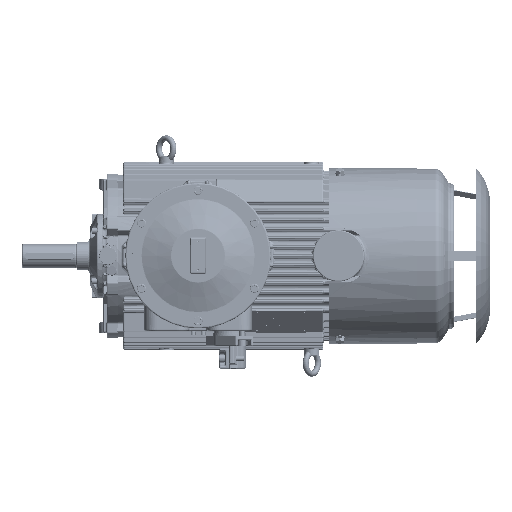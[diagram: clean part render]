
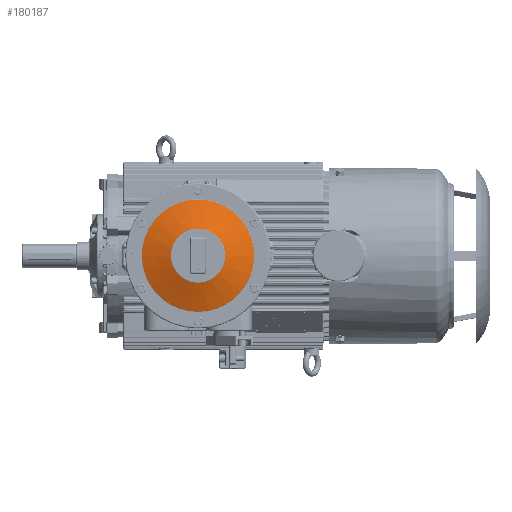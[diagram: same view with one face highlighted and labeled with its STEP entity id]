
A CAD part, top view. The second image highlights one B-rep face of the part: STEP entity #180187.
In plain terms, the highlighted conical face has half-angle 71.238 degrees and reference radius 112.386 mm.
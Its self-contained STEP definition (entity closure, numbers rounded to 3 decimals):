
#2109=CONICAL_SURFACE('',#189687,112.386,1.243);
#37016=ORIENTED_EDGE('',*,*,#75191,.T.);
#37017=ORIENTED_EDGE('',*,*,#75193,.T.);
#75191=EDGE_CURVE('',#94536,#94536,#106845,.F.);
#75193=EDGE_CURVE('',#94538,#94538,#106847,.T.);
#94536=VERTEX_POINT('',#248899);
#94538=VERTEX_POINT('',#248905);
#106845=CIRCLE('',#189684,111.917);
#106847=CIRCLE('',#189688,53.94);
#112446=EDGE_LOOP('',(#37016));
#112447=EDGE_LOOP('',(#37017));
#122854=FACE_BOUND('',#112446,.T.);
#122855=FACE_BOUND('',#112447,.T.);
#180187=ADVANCED_FACE('',(#122854,#122855),#2109,.T.);
#189684=AXIS2_PLACEMENT_3D('',#248898,#206154,#206155);
#189687=AXIS2_PLACEMENT_3D('',#248903,#206160,#206161);
#189688=AXIS2_PLACEMENT_3D('',#248904,#206162,#206163);
#206154=DIRECTION('',(0.,0.,-1.));
#206155=DIRECTION('',(-1.,0.003,0.));
#206160=DIRECTION('',(0.,0.,-1.));
#206161=DIRECTION('',(-1.,0.003,0.));
#206162=DIRECTION('',(0.,0.,-1.));
#206163=DIRECTION('',(0.003,1.,0.));
#248898=CARTESIAN_POINT('',(198.43,0.,395.169));
#248899=CARTESIAN_POINT('',(86.514,0.288,395.169));
#248903=CARTESIAN_POINT('',(198.43,0.,395.009));
#248904=CARTESIAN_POINT('',(198.43,0.,414.863));
#248905=CARTESIAN_POINT('',(198.569,53.94,414.863));
